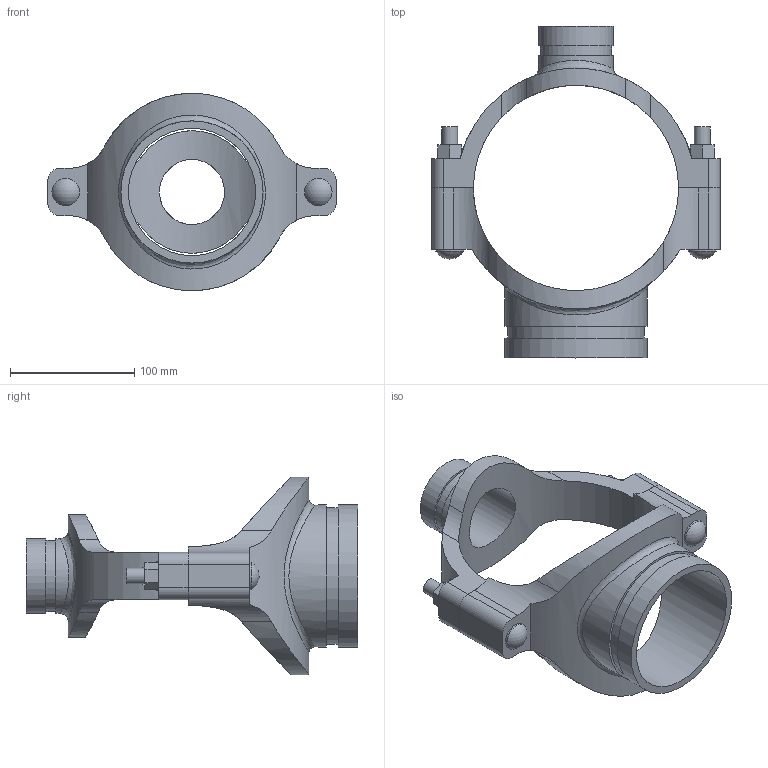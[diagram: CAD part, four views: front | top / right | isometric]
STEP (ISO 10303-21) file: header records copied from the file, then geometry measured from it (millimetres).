
FILE_DESCRIPTION(/* description */ ('VIC MECH-T BRANCH OUTLET CROSS STYLE 920N (GRVD)','CAx-IF Rec.Pracs.---Representation and Presentation of Product Manufacturing Information (PMI)---4.0---2014-10-13'),/* implementation_level */ '2;1');
FILE_NAME(/* name */ 'C:\Users\Vjadhav\AppData\Roaming\Autodesk\ApplicationPlugins\Back Up\Victaulic_IPS_Mechanical-Cross Outlet_Style 920N (OGS)\Victaulic_IPS_Mechanical-Cross Outlet_06.0 (165.1)x02.0x04.0 (150x50x100).stp',/* time_stamp */ '2020-08-06T19:45:29+05:00',/* author */ ('Vjadhav'),/* organization */ ('Victaulic'),/* preprocessor_version */ 'ST-DEVELOPER v17.2',/* originating_system */ 'Autodesk Inventor 2019',/* authorisation */ '');
FILE_SCHEMA (('AP242_MANAGED_MODEL_BASED_3D_ENGINEERING_MIM_LF { 1 0 10303 442 1 1 4 }'));
Length unit declared in the file: inch
Products named in the file (3): 920NG-06.0 (165.1)x02.0x04.0; 920NG-06.0 (165.1)x02.0x02.5; 920G-06.0 (165.1)x04.0
Assembly tree (2 placements, depth 2):
  920NG-06.0 (165.1)x02.0x04.0
    920NG-06.0 (165.1)x02.0x02.5
    920G-06.0 (165.1)x04.0
Bounding box: 231.9 x 266.95 x 158.65 mm (x, y, z)
Volume: 666827.6 mm3; surface area: 166617.1 mm2
Topology: 2 solids, 2 shells, 106 faces, 268 edges, 182 vertices
Faces by surface type: plane 54, cylinder 48, sphere 2, bspline 2
Full cylindrical faces by diameter (mm): 12.7 x4, 22.225 x2, 52.387 x1, 57.15 x1, 60.325 x2, 102.394 x1, 110.084 x1, 114.3 x2
Entity records: 4330 total; most frequent: CARTESIAN_POINT 1503, DIRECTION 542, ORIENTED_EDGE 536, EDGE_CURVE 268, AXIS2_PLACEMENT_3D 197, VERTEX_POINT 182, LINE 148, VECTOR 148
